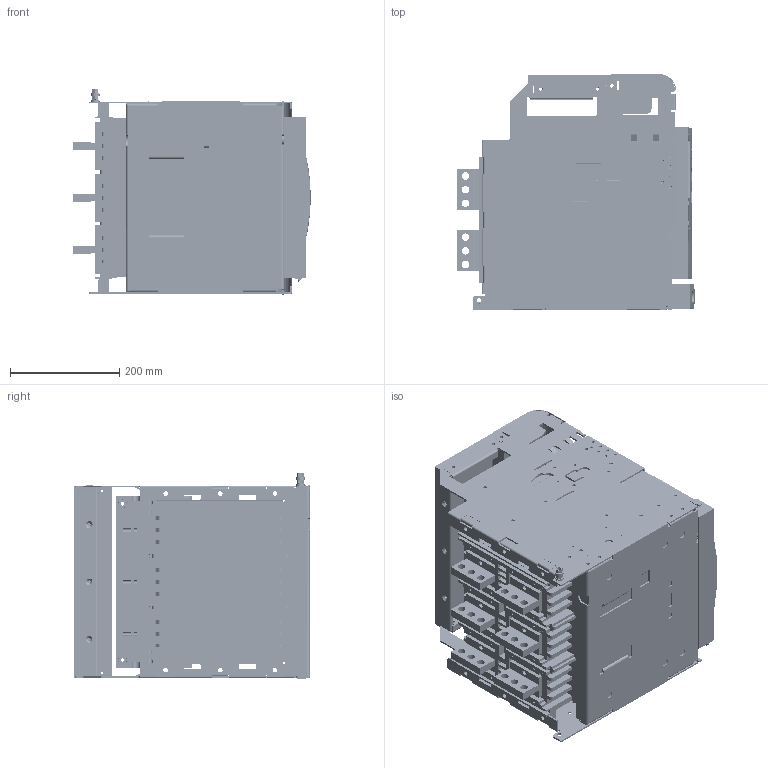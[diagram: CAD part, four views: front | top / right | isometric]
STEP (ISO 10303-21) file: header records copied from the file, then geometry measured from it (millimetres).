
FILE_DESCRIPTION (( 'STEP AP214' ), '1' );
FILE_NAME ('OptiMat A-S2-B-2000-3P-D-V.STEP', '2023-07-31T07:26:21', ( '' ), ( '' ), 'SwSTEP 2.0', 'SolidWorks 2018', '' );
FILE_SCHEMA (( 'AUTOMOTIVE_DESIGN' ));
Length unit declared in the file: millimetre
Products named in the file (1): OptiMat A-S2-B-2000-3P-D-V
Bounding box: 435.05 x 431.5 x 376.6 mm (x, y, z)
Volume: 40630871.3 mm3; surface area: 3782283.3 mm2
Topology: 39 solids, 39 shells, 7384 faces, 20025 edges, 12828 vertices
Faces by surface type: plane 3685, cylinder 2469, cone 490, torus 384, bspline 296, sphere 60
Entity records: 340995 total; most frequent: CARTESIAN_POINT 73633, ORIENTED_EDGE 39956, DIRECTION 37614, EDGE_CURVE 19978, VERTEX_POINT 12822, AXIS2_PLACEMENT_3D 12710, VECTOR 12194, LINE 12194
